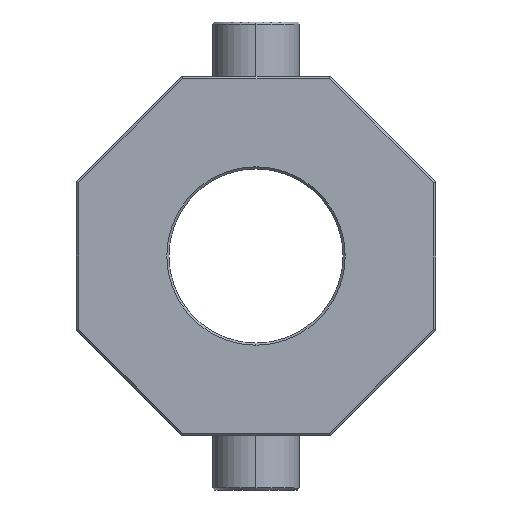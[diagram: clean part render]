
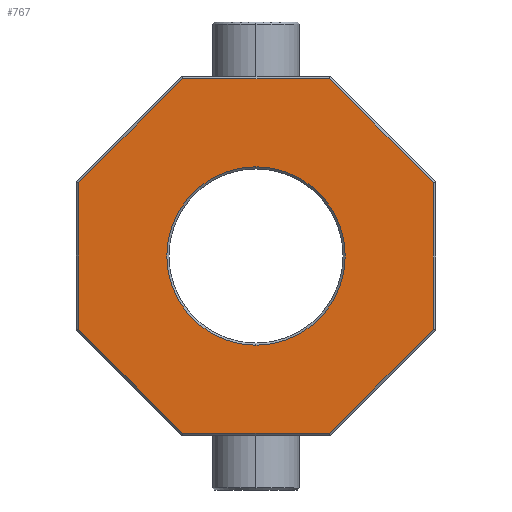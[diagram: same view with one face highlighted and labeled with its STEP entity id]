
A CAD part, left-side view. The second image highlights one B-rep face of the part: STEP entity #767.
In plain terms, the highlighted planar face has unit normal (-1, 0, 0).
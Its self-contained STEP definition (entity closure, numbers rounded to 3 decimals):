
#16 = ORIENTED_EDGE ( 'NONE', *, *, #1076, .T. ) ;
#71 = ORIENTED_EDGE ( 'NONE', *, *, #507, .T. ) ;
#80 = AXIS2_PLACEMENT_3D ( 'NONE', #353, #1944, #672 ) ;
#84 = VERTEX_POINT ( 'NONE', #335 ) ;
#97 = CARTESIAN_POINT ( 'NONE',  ( -25., 34.173, 81.501 ) ) ;
#175 = CARTESIAN_POINT ( 'NONE',  ( -25., 0., 0. ) ) ;
#180 = EDGE_CURVE ( 'NONE', #1771, #1184, #982, .T. ) ;
#205 = CARTESIAN_POINT ( 'NONE',  ( -25., -81.793, -33.466 ) ) ;
#206 = DIRECTION ( 'NONE',  ( 0., 0., -1. ) ) ;
#219 = CARTESIAN_POINT ( 'NONE',  ( -25., 33.759, 81.501 ) ) ;
#236 = EDGE_CURVE ( 'NONE', #1673, #864, #1891, .T. ) ;
#259 = ORIENTED_EDGE ( 'NONE', *, *, #1373, .T. ) ;
#292 = EDGE_CURVE ( 'NONE', #1959, #945, #513, .T. ) ;
#316 = AXIS2_PLACEMENT_3D ( 'NONE', #367, #1626, #206 ) ;
#317 = CARTESIAN_POINT ( 'NONE',  ( -25., 81.501, 33.759 ) ) ;
#335 = CARTESIAN_POINT ( 'NONE',  ( -25., 33.759, -81.501 ) ) ;
#353 = CARTESIAN_POINT ( 'NONE',  ( -25., 0., 0. ) ) ;
#359 = VERTEX_POINT ( 'NONE', #1211 ) ;
#367 = CARTESIAN_POINT ( 'NONE',  ( -25., 0., 0. ) ) ;
#430 = VECTOR ( 'NONE', #1518, 1000. ) ;
#463 = VERTEX_POINT ( 'NONE', #1595 ) ;
#485 = CARTESIAN_POINT ( 'NONE',  ( -25., 81.501, -33.759 ) ) ;
#507 = EDGE_CURVE ( 'NONE', #864, #1673, #632, .T. ) ;
#513 = LINE ( 'NONE', #205, #1568 ) ;
#519 = EDGE_LOOP ( 'NONE', ( #16, #539, #559, #1323, #259, #1778, #1571, #1470 ) ) ;
#533 = DIRECTION ( 'NONE',  ( 0., 0.707, -0.707 ) ) ;
#539 = ORIENTED_EDGE ( 'NONE', *, *, #1826, .T. ) ;
#550 = LINE ( 'NONE', #97, #792 ) ;
#559 = ORIENTED_EDGE ( 'NONE', *, *, #180, .T. ) ;
#632 = CIRCLE ( 'NONE', #877, 41. ) ;
#659 = CARTESIAN_POINT ( 'NONE',  ( -25., -33.466, 81.793 ) ) ;
#672 = DIRECTION ( 'NONE',  ( 0., 0., -1. ) ) ;
#674 = FACE_OUTER_BOUND ( 'NONE', #519, .T. ) ;
#694 = DIRECTION ( 'NONE',  ( 0., -0.707, 0.707 ) ) ;
#722 = DIRECTION ( 'NONE',  ( 0., 0., -1. ) ) ;
#724 = CARTESIAN_POINT ( 'NONE',  ( -25., 33.466, -81.793 ) ) ;
#730 = DIRECTION ( 'NONE',  ( 0., 1., 0. ) ) ;
#750 = LINE ( 'NONE', #1407, #1385 ) ;
#762 = DIRECTION ( 'NONE',  ( 0., 0., 1. ) ) ;
#767 = ADVANCED_FACE ( 'NONE', ( #674, #1147 ), #1741, .F. ) ;
#792 = VECTOR ( 'NONE', #730, 1000. ) ;
#826 = VECTOR ( 'NONE', #1107, 1000. ) ;
#843 = VECTOR ( 'NONE', #533, 1000. ) ;
#864 = VERTEX_POINT ( 'NONE', #1806 ) ;
#877 = AXIS2_PLACEMENT_3D ( 'NONE', #175, #986, #1927 ) ;
#907 = CARTESIAN_POINT ( 'NONE',  ( -25., -33.759, -81.501 ) ) ;
#945 = VERTEX_POINT ( 'NONE', #1541 ) ;
#982 = LINE ( 'NONE', #1320, #843 ) ;
#986 = DIRECTION ( 'NONE',  ( 1., 0., 0. ) ) ;
#1011 = EDGE_LOOP ( 'NONE', ( #71, #1632 ) ) ;
#1012 = CARTESIAN_POINT ( 'NONE',  ( -25., -34.173, -81.501 ) ) ;
#1020 = LINE ( 'NONE', #724, #430 ) ;
#1076 = EDGE_CURVE ( 'NONE', #359, #463, #1419, .T. ) ;
#1107 = DIRECTION ( 'NONE',  ( 0., 0.707, 0.707 ) ) ;
#1147 = FACE_BOUND ( 'NONE', #1011, .T. ) ;
#1155 = VECTOR ( 'NONE', #1653, 1000. ) ;
#1184 = VERTEX_POINT ( 'NONE', #317 ) ;
#1206 = VERTEX_POINT ( 'NONE', #485 ) ;
#1211 = CARTESIAN_POINT ( 'NONE',  ( -25., -81.501, 33.759 ) ) ;
#1260 = CARTESIAN_POINT ( 'NONE',  ( -25., 0., -41. ) ) ;
#1320 = CARTESIAN_POINT ( 'NONE',  ( -25., 81.793, 33.466 ) ) ;
#1323 = ORIENTED_EDGE ( 'NONE', *, *, #1725, .T. ) ;
#1352 = LINE ( 'NONE', #1012, #1155 ) ;
#1373 = EDGE_CURVE ( 'NONE', #1206, #84, #1020, .T. ) ;
#1381 = EDGE_CURVE ( 'NONE', #84, #1959, #1352, .T. ) ;
#1385 = VECTOR ( 'NONE', #762, 1000. ) ;
#1407 = CARTESIAN_POINT ( 'NONE',  ( -25., -81.501, 34.173 ) ) ;
#1419 = LINE ( 'NONE', #659, #826 ) ;
#1470 = ORIENTED_EDGE ( 'NONE', *, *, #1491, .T. ) ;
#1473 = CARTESIAN_POINT ( 'NONE',  ( -25., 81.501, -34.173 ) ) ;
#1491 = EDGE_CURVE ( 'NONE', #945, #359, #750, .T. ) ;
#1518 = DIRECTION ( 'NONE',  ( 0., -0.707, -0.707 ) ) ;
#1541 = CARTESIAN_POINT ( 'NONE',  ( -25., -81.501, -33.759 ) ) ;
#1568 = VECTOR ( 'NONE', #694, 1000. ) ;
#1571 = ORIENTED_EDGE ( 'NONE', *, *, #292, .T. ) ;
#1595 = CARTESIAN_POINT ( 'NONE',  ( -25., -33.759, 81.501 ) ) ;
#1626 = DIRECTION ( 'NONE',  ( 1., 0., 0. ) ) ;
#1632 = ORIENTED_EDGE ( 'NONE', *, *, #236, .T. ) ;
#1653 = DIRECTION ( 'NONE',  ( 0., -1., 0. ) ) ;
#1673 = VERTEX_POINT ( 'NONE', #1260 ) ;
#1719 = VECTOR ( 'NONE', #722, 1000. ) ;
#1725 = EDGE_CURVE ( 'NONE', #1184, #1206, #1792, .T. ) ;
#1741 = PLANE ( 'NONE',  #316 ) ;
#1771 = VERTEX_POINT ( 'NONE', #219 ) ;
#1778 = ORIENTED_EDGE ( 'NONE', *, *, #1381, .T. ) ;
#1792 = LINE ( 'NONE', #1473, #1719 ) ;
#1806 = CARTESIAN_POINT ( 'NONE',  ( -25., 0., 41. ) ) ;
#1826 = EDGE_CURVE ( 'NONE', #463, #1771, #550, .T. ) ;
#1891 = CIRCLE ( 'NONE', #80, 41. ) ;
#1927 = DIRECTION ( 'NONE',  ( 0., 0., -1. ) ) ;
#1944 = DIRECTION ( 'NONE',  ( 1., 0., 0. ) ) ;
#1959 = VERTEX_POINT ( 'NONE', #907 ) ;
